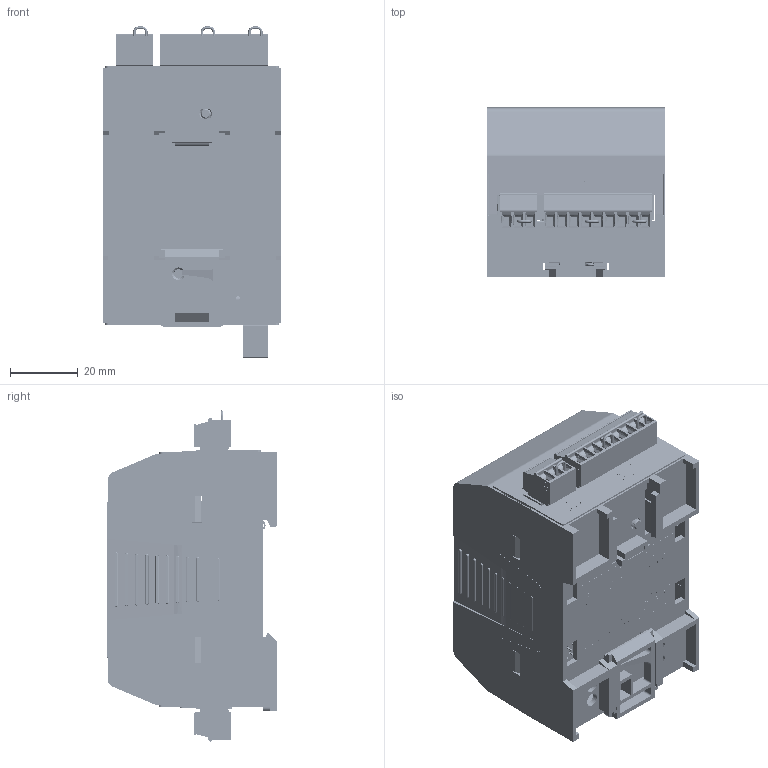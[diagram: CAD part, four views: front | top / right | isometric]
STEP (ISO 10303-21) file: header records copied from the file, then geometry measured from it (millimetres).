
FILE_DESCRIPTION (( 'STEP AP214' ), '1' );
FILE_NAME ('HI6200-WT-10-ANA-000.STEP', '2019-02-15T22:26:32', ( '' ), ( '' ), 'SwSTEP 2.0', 'SolidWorks 2017', '' );
FILE_SCHEMA (( 'AUTOMOTIVE_DESIGN' ));
Length unit declared in the file: millimetre
Products named in the file (26): 2140-0153-09-0; 0517-0132-01-0_REV A; 2140-0154-0; 0535-0582-XX-0_ANA; 0534-0582-01-0_Revision 10; 0530-0872-01-0_REV X1; 0577-0149-01-0_REV A; HI6200-WT-10-ANA-000; Molex_5019512410; 2140-0152-09-0; 2140-0153-02-0; 1428-0028-0; 6026-0003-0_3.5mm Pitch x 5mm Long; 0579-0031-01-0_REV B_Default<As Machined>; 0517-0131-01-0_REV A; 2450-0039-0; 2817-0271-0_92005A112; 2140-0152-02-0; Phoenix_EH_52.5_F-B_ABS_H.Select_1; 0505-0333-01-0_REV X2; 2450-0039-0_24P Tail; Phoenix_MEBS-Snap-lock DIN Rail Clip; Tyco_c-1-6605752-1-d-3d; 0517-0134-01-0_REV A; 2140-0150-03-0; 2140-0151-03-0
Assembly tree (30 placements, depth 3):
  HI6200-WT-10-ANA-000
    1428-0028-0
      Phoenix_EH_52.5_F-B_ABS_H.Select_1
      Phoenix_MEBS-Snap-lock DIN Rail Clip
    0505-0333-01-0_REV X2
    2817-0271-0_92005A112
    0577-0149-01-0_REV A
    2450-0039-0
    2450-0039-0_24P Tail
    0579-0031-01-0_REV B_Default<As Machined>
    0517-0131-01-0_REV A
    0517-0132-01-0_REV A
    2140-0151-03-0
    6026-0003-0_3.5mm Pitch x 5mm Long  x3
    2140-0153-09-0
    0517-0134-01-0_REV A
    2140-0153-02-0
    0530-0872-01-0_REV X1
    0535-0582-XX-0_ANA
      0534-0582-01-0_Revision 10
      Tyco_c-1-6605752-1-d-3d
      Molex_5019512410
      2140-0150-03-0
      2140-0152-02-0
      2140-0152-09-0
      2140-0154-0  x3
    2140-0154-0
Bounding box: 52.6 x 50.23 x 97.48 mm (x, y, z)
Volume: 59623.6 mm3; surface area: 99404.7 mm2
Topology: 104 solids, 105 shells, 9885 faces, 26704 edges, 17569 vertices
Faces by surface type: plane 6097, bspline 2265, cylinder 1435, cone 64, torus 22, sphere 2
Entity records: 429345 total; most frequent: CARTESIAN_POINT 122345, ORIENTED_EDGE 52600, DIRECTION 38259, EDGE_CURVE 26301, VECTOR 18361, LINE 18361, VERTEX_POINT 17317, EDGE_LOOP 10585
